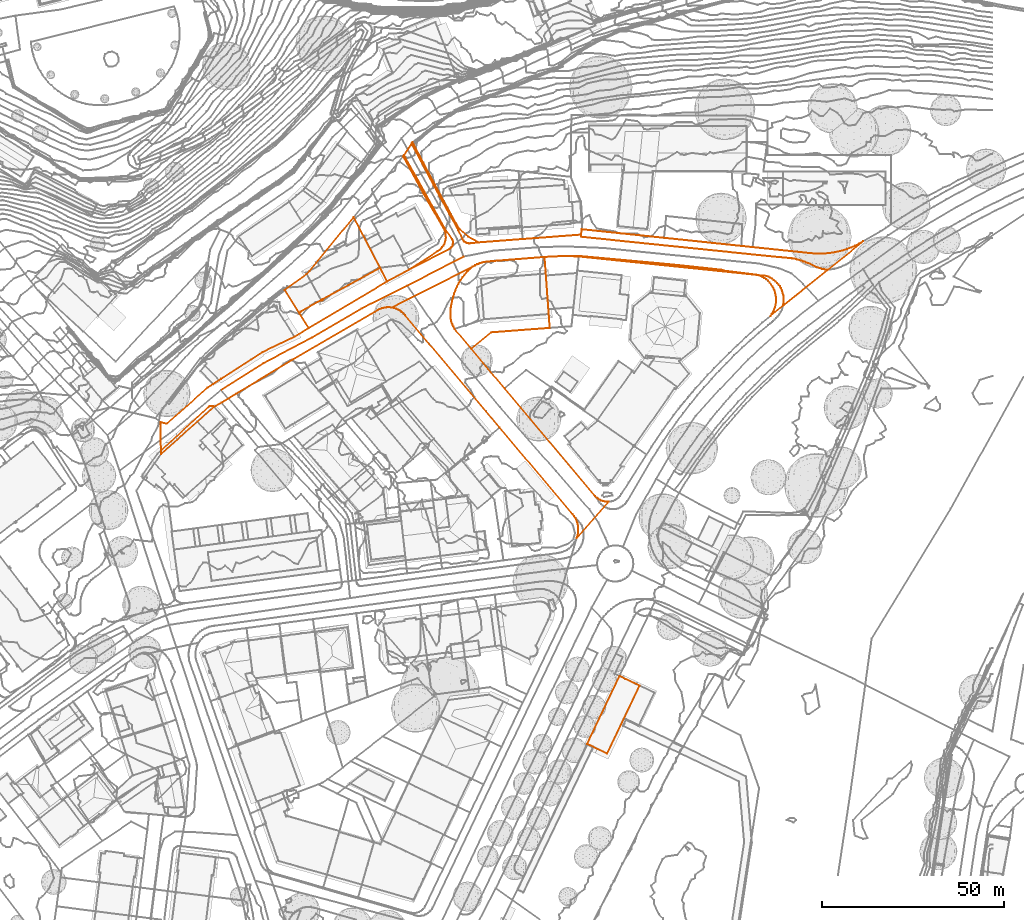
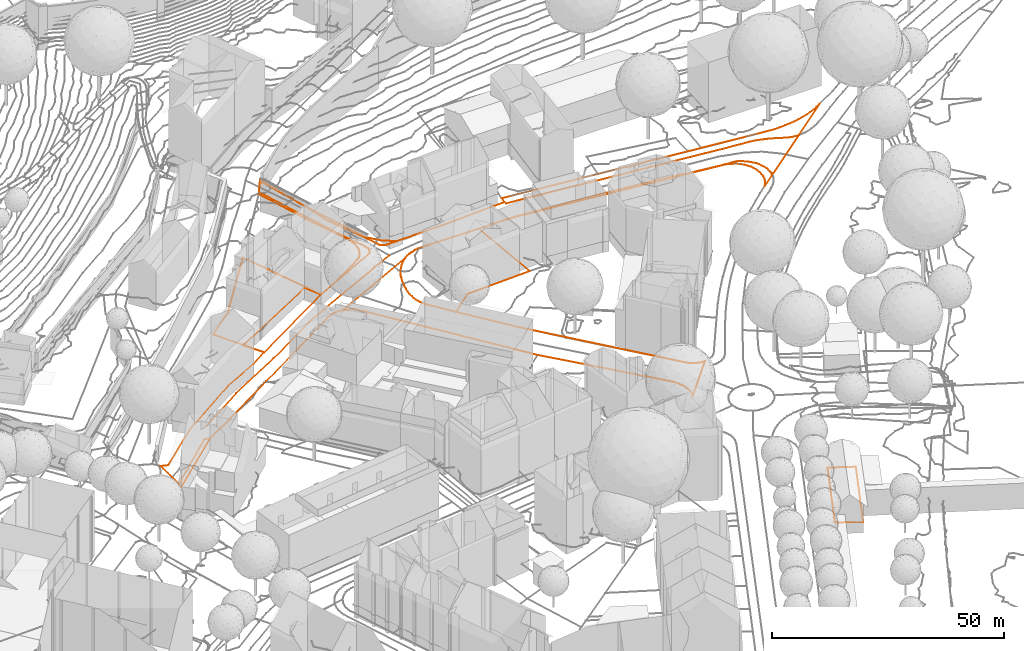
# Not in any storey, part 191 of 494: 8 proxies.
"""IFC2X3 model written with IfcOpenShell, lengths in metres."""

from ifc_helpers import new_model, entity, si_unit, frame, origin_with_axes, place, context, subcontext, project, element, save


model = new_model("IFC2X3")

# Units and contexts
model_context = context("Model", 3, precision=1e-05, world=origin_with_axes())
body_context = subcontext(model_context, "Body", "Model", "MODEL_VIEW")
ifc_project = project(units=[si_unit("AREAUNIT", "SQUARE_METRE"), si_unit("LENGTHUNIT", "METRE")], contexts=[model_context])

# Proxies
proxy_1_placement = place(None, frame((527.7037320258, 265.7307350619, 504.381), z_axis=(0.0, 0.0, 1.0), x_axis=(1.0, 0.0, 0.0)))
element("IfcBuildingElementProxy", 1, at=proxy_1_placement, Name="Road 159", ObjectType="NOTDEFINED", context=body_context, shape_type="GeometricCurveSet", body=[
    entity("IfcGeometricCurveSet", [entity("IfcPolyline", [entity("IfcCartesianPoint", [0.0, 0.0, 0.0]), entity("IfcCartesianPoint", [15.4189999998, 7.9289997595, -0.771])])]),
])
proxy_2_placement = place(None, frame((476.602732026, 237.095735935, 504.218), z_axis=(0.0, 0.0, 1.0), x_axis=(1.0, 0.0, 0.0)))
element("IfcBuildingElementProxy", 2, at=proxy_2_placement, Name="Road 160", ObjectType="NOTDEFINED", context=body_context, shape_type="GeometricCurveSet", body=[
    entity("IfcGeometricCurveSet", [entity("IfcPolyline", [entity("IfcCartesianPoint", [0.0, 0.0, 0.0]), entity("IfcCartesianPoint", [11.5999999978, 7.3429997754, 0.158]), entity("IfcCartesianPoint", [24.9639999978, 14.3909995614, 0.296]), entity("IfcCartesianPoint", [38.4729999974, 22.3199993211, 0.466]), entity("IfcCartesianPoint", [51.1009999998, 28.6349991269, 0.163])])]),
])
proxy_3_placement = place(None, frame((498.0067320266, 258.2397160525, 505.0044023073), z_axis=(0.0, 0.0, 1.0), x_axis=(1.0, 0.0, 0.0)))
element("IfcBuildingElementProxy", 3, at=proxy_3_placement, Name="Roads Outline 86", ObjectType="NOTDEFINED", context=body_context, shape_type="GeometricCurveSet", body=[
    entity("IfcGeometricCurveSet", [entity("IfcPolyline", [entity("IfcCartesianPoint", [0.0, 0.0, 0.0]), entity("IfcCartesianPoint", [0.4220000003, 0.2329999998, 0.0104049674]), entity("IfcCartesianPoint", [0.352, 0.3589999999, 0.0224719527]), entity("IfcCartesianPoint", [6.051, 3.5049999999, -0.0154420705]), entity("IfcCartesianPoint", [6.1189999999, 3.3779999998, -0.0208523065]), entity("IfcCartesianPoint", [6.5470000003, 3.6169999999, -0.0224713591]), entity("IfcCartesianPoint", [6.48, 3.74, -0.0165495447]), entity("IfcCartesianPoint", [22.2250000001, 12.3529999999, -0.0714564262]), entity("IfcCartesianPoint", [24.165, 8.6279999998, -0.231767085]), entity("IfcCartesianPoint", [2.6370000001, -4.1850000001, -0.1503105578]), entity("IfcCartesianPoint", [0.0, 0.0, 0.0])])]),
])
proxy_4_placement = place(None, frame((459.9487320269, 228.2327160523, 504.8418987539), z_axis=(0.0, 0.0, 1.0), x_axis=(1.0, 0.0, 0.0)))
element("IfcBuildingElementProxy", 4, at=proxy_4_placement, Name="Roads Outline 138", ObjectType="NOTDEFINED", context=body_context, shape_type="GeometricCurveSet", body=[
    entity("IfcGeometricCurveSet", [entity("IfcPolyline", [entity("IfcCartesianPoint", [0.0, 0.0, 0.0]), entity("IfcCartesianPoint", [1.71, -0.4199999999, -0.1232187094]), entity("IfcCartesianPoint", [12.9679999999, 9.5210000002, -0.4129436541]), entity("IfcCartesianPoint", [14.4979999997, 10.5120000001, -0.421766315]), entity("IfcCartesianPoint", [16.6359999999, 11.8960000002, -0.4321760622]), entity("IfcCartesianPoint", [16.6599999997, 11.912, -0.4316490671]), entity("IfcCartesianPoint", [27.9759999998, 19.2410000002, -0.2433637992]), entity("IfcCartesianPoint", [36.7549999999, 23.4620000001, -0.0969192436]), entity("IfcCartesianPoint", [40.6949999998, 25.8220000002, 0.0121929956]), entity("IfcCartesianPoint", [62.2229999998, 38.635, -0.0692635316]), entity("IfcCartesianPoint", [68.2420000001, 41.865, -0.3630656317]), entity("IfcCartesianPoint", [79.3089999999, 47.5490000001, -0.8579074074]), entity("IfcCartesianPoint", [79.6159999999, 47.7790000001, -0.8668630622]), entity("IfcCartesianPoint", [79.8739999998, 48.0630000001, -0.8761889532]), entity("IfcCartesianPoint", [80.0729999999, 48.392, -0.885385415]), entity("IfcCartesianPoint", [80.2059999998, 48.7520000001, -0.8717490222]), entity("IfcCartesianPoint", [80.2679999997, 49.1310000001, -0.8525131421]), entity("IfcCartesianPoint", [80.2560000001, 49.5150000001, -0.8237447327]), entity("IfcCartesianPoint", [80.1710000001, 49.8900000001, -0.7766225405]), entity("IfcCartesianPoint", [80.0159999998, 50.2410000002, -0.7260662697]), entity("IfcCartesianPoint", [77.9699999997, 53.2650000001, 0.0005646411]), entity("IfcCartesianPoint", [72.4989999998, 63.1050000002, 2.0684889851]), entity("IfcCartesianPoint", [66.8339999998, 73.2950000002, 4.1607985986]), entity("IfcCartesianPoint", [68.9129999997, 76.4570000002, 4.4777958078]), entity("IfcCartesianPoint", [68.9720000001, 76.5480000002, 4.4693384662]), entity("IfcCartesianPoint", [69.1159999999, 76.6630000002, 4.434723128]), entity("IfcCartesianPoint", [69.4809999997, 76.2130000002, 4.2071783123]), entity("IfcCartesianPoint", [69.1719999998, 75.9670000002, 4.3556941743]), entity("IfcCartesianPoint", [74.9679999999, 65.0240000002, 1.7788296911]), entity("IfcCartesianPoint", [76.6179999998, 62.0150000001, 0.5416973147]), entity("IfcCartesianPoint", [81.6639999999, 52.814, -0.6172307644]), entity("IfcCartesianPoint", [81.702, 52.7370000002, -0.6213678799]), entity("IfcCartesianPoint", [82.9249999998, 50.209, -1.0006290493]), entity("IfcCartesianPoint", [83.1129999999, 49.8800000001, -1.0385109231]), entity("IfcCartesianPoint", [83.3599999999, 49.5930000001, -1.0722794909]), entity("IfcCartesianPoint", [83.6569999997, 49.358, -1.0953509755]), entity("IfcCartesianPoint", [83.9929999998, 49.1840000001, -1.1090376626]), entity("IfcCartesianPoint", [84.3559999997, 49.0760000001, -1.124741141]), entity("IfcCartesianPoint", [84.733, 49.0390000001, -1.1439229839]), entity("IfcCartesianPoint", [85.1099999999, 49.074, -1.1650222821]), entity("IfcCartesianPoint", [87.25, 49.317, -1.2778135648]), entity("IfcCartesianPoint", [99.3489999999, 50.2380000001, -1.8017034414]), entity("IfcCartesianPoint", [115.3879999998, 51.4500000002, -2.1168988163]), entity("IfcCartesianPoint", [115.3649999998, 50.8560000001, -2.1028507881]), entity("IfcCartesianPoint", [135.1370000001, 48.8110000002, -2.2270129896]), entity("IfcCartesianPoint", [162.3309999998, 46.0210000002, -2.386471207]), entity("IfcCartesianPoint", [165.1529999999, 45.7240000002, -2.4019674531]), entity("IfcCartesianPoint", [167.977, 45.4450000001, -2.39616512]), entity("IfcCartesianPoint", [170.2969999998, 45.2290000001, -2.4029623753]), entity("IfcCartesianPoint", [172.6179999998, 45.0250000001, -2.3969487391]), entity("IfcCartesianPoint", [173.3119999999, 44.9430000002, -2.4014590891]), entity("IfcCartesianPoint", [174.0, 44.817, -2.3913046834]), entity("IfcCartesianPoint", [174.6859999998, 44.6460000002, -2.3960505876]), entity("IfcCartesianPoint", [175.3599999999, 44.432, -2.4049477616]), entity("IfcCartesianPoint", [175.852, 44.2830000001, -2.4295135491]), entity("IfcCartesianPoint", [176.3419999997, 44.1290000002, -2.4437197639]), entity("IfcCartesianPoint", [176.7259999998, 43.996, -2.4327907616]), entity("IfcCartesianPoint", [177.108, 43.8550000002, -2.423153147]), entity("IfcCartesianPoint", [177.6009999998, 43.6600000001, -2.4193285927]), entity("IfcCartesianPoint", [178.088, 43.452, -2.4255263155]), entity("IfcCartesianPoint", [179.9939999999, 42.5360000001, -2.4086142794]), entity("IfcCartesianPoint", [180.7479999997, 42.2560000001, -2.4134071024]), entity("IfcCartesianPoint", [181.5260000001, 42.0520000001, -2.417632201]), entity("IfcCartesianPoint", [182.321, 41.925, -2.4143563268]), entity("IfcCartesianPoint", [183.1239999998, 41.878, -2.4096493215]), entity("IfcCartesianPoint", [170.7779999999, 31.969, -2.5358252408]), entity("IfcCartesianPoint", [170.8459999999, 32.273, -2.5293900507]), entity("IfcCartesianPoint", [170.906, 32.5790000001, -2.525210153]), entity("IfcCartesianPoint", [170.96, 33.027, -2.5184964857]), entity("IfcCartesianPoint", [170.9839999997, 33.4770000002, -2.5111974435]), entity("IfcCartesianPoint", [170.9669999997, 34.0870000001, -2.5101185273]), entity("IfcCartesianPoint", [170.895, 34.692, -2.5056473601]), entity("IfcCartesianPoint", [170.7069999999, 35.419, -2.4953802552]), entity("IfcCartesianPoint", [170.4609999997, 36.1290000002, -2.4664247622]), entity("IfcCartesianPoint", [170.216, 36.7320000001, -2.4511136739]), entity("IfcCartesianPoint", [169.9010000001, 37.3010000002, -2.4267985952]), entity("IfcCartesianPoint", [169.5449999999, 37.7810000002, -2.4251996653]), entity("IfcCartesianPoint", [169.1439999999, 38.2240000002, -2.4481680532]), entity("IfcCartesianPoint", [168.702, 38.6270000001, -2.4188052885]), entity("IfcCartesianPoint", [168.2239999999, 38.986, -2.3899649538]), entity("IfcCartesianPoint", [167.7429999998, 39.3540000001, -2.3787838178]), entity("IfcCartesianPoint", [167.2239999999, 39.6670000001, -2.3629375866]), entity("IfcCartesianPoint", [166.75, 39.888, -2.3629223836]), entity("IfcCartesianPoint", [166.2579999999, 40.0620000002, -2.3602938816]), entity("IfcCartesianPoint", [165.7509999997, 40.189, -2.4042580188]), entity("IfcCartesianPoint", [165.443, 40.2300000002, -2.4245010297]), entity("IfcCartesianPoint", [165.1340000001, 40.2580000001, -2.4381299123]), entity("IfcCartesianPoint", [164.7080000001, 40.2750000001, -2.4457945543]), entity("IfcCartesianPoint", [164.281, 40.267, -2.4553817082]), entity("IfcCartesianPoint", [163.9720000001, 40.3540000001, -2.4663609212]), entity("IfcCartesianPoint", [163.6549999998, 40.4100000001, -2.4838023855]), entity("IfcCartesianPoint", [154.2119999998, 41.5990000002, -2.4604667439]), entity("IfcCartesianPoint", [154.1969999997, 41.77, -2.4478355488]), entity("IfcCartesianPoint", [144.6359999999, 42.8060000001, -2.2855084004]), entity("IfcCartesianPoint", [142.4709999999, 43.0280000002, -2.2872750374]), entity("IfcCartesianPoint", [140.3059999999, 43.2450000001, -2.2930214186]), entity("IfcCartesianPoint", [138.0090000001, 43.4700000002, -2.280143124]), entity("IfcCartesianPoint", [135.7109999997, 43.6900000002, -2.2474278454]), entity("IfcCartesianPoint", [114.764, 45.5960000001, -2.1354539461]), entity("IfcCartesianPoint", [110.7879999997, 45.5990000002, -2.1140774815]), entity("IfcCartesianPoint", [105.3699999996, 45.327, -1.9455361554]), entity("IfcCartesianPoint", [90.3199999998, 44.1270000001, -0.8276249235]), entity("IfcCartesianPoint", [89.6289999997, 44.0650000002, -0.8125362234]), entity("IfcCartesianPoint", [88.9439999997, 43.956, -0.8382813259]), entity("IfcCartesianPoint", [88.2679999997, 43.8, -0.9180225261]), entity("IfcCartesianPoint", [87.605, 43.598, -0.8948761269]), entity("IfcCartesianPoint", [86.9139999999, 43.3300000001, -0.8857218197]), entity("IfcCartesianPoint", [86.2449999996, 43.013, -0.9266092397]), entity("IfcCartesianPoint", [85.6009999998, 42.6470000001, -0.9684238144]), entity("IfcCartesianPoint", [63.483, 31.4440000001, -0.3169070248]), entity("IfcCartesianPoint", [62.7999999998, 31.5190000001, -0.3063845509]), entity("IfcCartesianPoint", [62.1129999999, 31.5160000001, -0.2919583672]), entity("IfcCartesianPoint", [61.4309999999, 31.4340000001, -0.2831952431]), entity("IfcCartesianPoint", [60.7629999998, 31.2750000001, -0.2898164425]), entity("IfcCartesianPoint", [60.1179999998, 31.0410000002, -0.3227302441]), entity("IfcCartesianPoint", [59.503, 30.7340000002, -0.3162904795]), entity("IfcCartesianPoint", [36.2560000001, 17.1810000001, -0.8135671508]), entity("IfcCartesianPoint", [20.9069999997, 7.898, -0.8180141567]), entity("IfcCartesianPoint", [16.7779999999, 5.4010000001, -0.5251862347]), entity("IfcCartesianPoint", [14.7080000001, 4.2300000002, -0.4770864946]), entity("IfcCartesianPoint", [14.4699999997, 4.3790000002, -0.4719172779]), entity("IfcCartesianPoint", [14.2029999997, 4.4670000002, -0.4660898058]), entity("IfcCartesianPoint", [13.9219999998, 4.4880000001, -0.4501818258]), entity("IfcCartesianPoint", [13.645, 4.442, -0.4307251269]), entity("IfcCartesianPoint", [13.3870000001, 4.3300000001, -0.4135209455]), entity("IfcCartesianPoint", [0.1429999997, -7.7159999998, -0.125604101]), entity("IfcCartesianPoint", [0.0209999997, -1.1239999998, 0.0149323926]), entity("IfcCartesianPoint", [0.0, 0.0, 0.0])])]),
])
proxy_5_placement = place(None, frame((459.9487320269, 228.2327160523, 504.8418987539), z_axis=(0.0, 0.0, 1.0), x_axis=(1.0, 0.0, 0.0)))
element("IfcBuildingElementProxy", 5, at=proxy_5_placement, Name="Cadastre 26", ObjectType="NOTDEFINED", context=body_context, shape_type="GeometricCurveSet", body=[
    entity("IfcGeometricCurveSet", [entity("IfcPolyline", [entity("IfcCartesianPoint", [0.0, 0.0, 0.0]), entity("IfcCartesianPoint", [1.71, -0.4199999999, -0.1232187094]), entity("IfcCartesianPoint", [12.9679999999, 9.5210000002, -0.4129436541]), entity("IfcCartesianPoint", [27.9759999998, 19.2410000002, -0.2433637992]), entity("IfcCartesianPoint", [36.7549999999, 23.4620000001, -0.0969192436]), entity("IfcCartesianPoint", [40.6949999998, 25.8220000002, 0.0121929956]), entity("IfcCartesianPoint", [62.2229999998, 38.635, -0.0692635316]), entity("IfcCartesianPoint", [68.2420000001, 41.865, -0.3630656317]), entity("IfcCartesianPoint", [76.071, 46.9160000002, -0.7551617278]), entity("IfcCartesianPoint", [76.5299999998, 47.2410000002, -0.7867815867]), entity("IfcCartesianPoint", [76.9469999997, 47.618, -0.7828451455]), entity("IfcCartesianPoint", [77.318, 48.0410000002, -0.7656288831]), entity("IfcCartesianPoint", [77.6370000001, 48.5050000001, -0.7362809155]), entity("IfcCartesianPoint", [77.8989999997, 49.0020000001, -0.6702431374]), entity("IfcCartesianPoint", [78.1009999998, 49.527, -0.6247521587]), entity("IfcCartesianPoint", [78.227, 50.071, -0.5673844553]), entity("IfcCartesianPoint", [78.2889999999, 50.6270000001, -0.4908465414]), entity("IfcCartesianPoint", [78.2859999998, 51.1860000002, -0.4051566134]), entity("IfcCartesianPoint", [78.2179999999, 51.74, -0.3207147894]), entity("IfcCartesianPoint", [78.0859999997, 52.2830000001, -0.1995545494]), entity("IfcCartesianPoint", [77.8909999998, 52.807, -0.0329382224]), entity("IfcCartesianPoint", [72.1809999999, 62.7370000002, 1.8230767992]), entity("IfcCartesianPoint", [66.5919999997, 72.9280000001, 3.986755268]), entity("IfcCartesianPoint", [69.156, 76.8280000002, 4.4366239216]), entity("IfcCartesianPoint", [75.3109999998, 65.1880000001, 1.5200778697]), entity("IfcCartesianPoint", [82.0209999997, 52.9170000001, -0.6916874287]), entity("IfcCartesianPoint", [84.341, 50.9170000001, -1.0382998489]), entity("IfcCartesianPoint", [87.25, 49.317, -1.2778135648]), entity("IfcCartesianPoint", [99.3489999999, 50.2380000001, -1.8017034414]), entity("IfcCartesianPoint", [115.3879999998, 51.4500000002, -2.1168988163]), entity("IfcCartesianPoint", [115.548, 52.9200000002, -2.0648500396]), entity("IfcCartesianPoint", [178.4619999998, 46.344, -2.2949476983]), entity("IfcCartesianPoint", [179.7029999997, 46.2540000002, -2.2675671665]), entity("IfcCartesianPoint", [180.9479999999, 46.233, -2.2443396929]), entity("IfcCartesianPoint", [182.1919999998, 46.2790000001, -2.1693552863]), entity("IfcCartesianPoint", [183.4309999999, 46.3930000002, -2.1648137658]), entity("IfcCartesianPoint", [184.6629999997, 46.5760000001, -2.2044088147]), entity("IfcCartesianPoint", [185.8819999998, 46.8250000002, -2.222130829]), entity("IfcCartesianPoint", [187.0899999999, 47.1320000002, -2.194226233]), entity("IfcCartesianPoint", [188.2799999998, 47.5050000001, -2.1938622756]), entity("IfcCartesianPoint", [189.4469999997, 47.9430000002, -2.2233870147]), entity("IfcCartesianPoint", [190.5889999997, 48.4440000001, -2.2305565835]), entity("IfcCartesianPoint", [191.7009999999, 49.0070000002, -2.2016459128]), entity("IfcCartesianPoint", [192.781, 49.6300000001, -2.2017138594]), entity("IfcCartesianPoint", [167.2939999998, 29.172, -2.5288479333]), entity("IfcCartesianPoint", [167.6919999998, 29.7100000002, -2.5128247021]), entity("IfcCartesianPoint", [168.037, 30.2830000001, -2.4973186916]), entity("IfcCartesianPoint", [168.3259999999, 30.8870000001, -2.4724062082]), entity("IfcCartesianPoint", [168.5549999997, 31.5160000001, -2.442945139]), entity("IfcCartesianPoint", [168.7239999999, 32.1630000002, -2.4601701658]), entity("IfcCartesianPoint", [168.8300000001, 32.824, -2.4669942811]), entity("IfcCartesianPoint", [168.8729999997, 33.4920000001, -2.4684073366]), entity("IfcCartesianPoint", [168.8599999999, 34.1460000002, -2.4684645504]), entity("IfcCartesianPoint", [168.7859999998, 34.797, -2.4519349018]), entity("IfcCartesianPoint", [168.6519999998, 35.4370000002, -2.4167913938]), entity("IfcCartesianPoint", [168.4589999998, 36.0630000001, -2.386385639]), entity("IfcCartesianPoint", [168.2080000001, 36.6670000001, -2.3694912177]), entity("IfcCartesianPoint", [167.9019999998, 37.246, -2.388795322]), entity("IfcCartesianPoint", [167.5430000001, 37.7930000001, -2.3846236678]), entity("IfcCartesianPoint", [167.1170000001, 38.3110000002, -2.3778846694]), entity("IfcCartesianPoint", [166.6429999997, 38.7850000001, -2.3934559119]), entity("IfcCartesianPoint", [166.125, 39.2120000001, -2.3633840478]), entity("IfcCartesianPoint", [165.5699999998, 39.5870000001, -2.4334442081]), entity("IfcCartesianPoint", [164.98, 39.9070000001, -2.4688640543]), entity("IfcCartesianPoint", [164.3629999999, 40.1700000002, -2.460080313]), entity("IfcCartesianPoint", [163.7239999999, 40.3720000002, -2.4806559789]), entity("IfcCartesianPoint", [114.7479999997, 45.449, -2.1417951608]), entity("IfcCartesianPoint", [110.7879999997, 45.5990000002, -2.1140774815]), entity("IfcCartesianPoint", [105.3699999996, 45.327, -1.9455361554]), entity("IfcCartesianPoint", [90.3199999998, 44.1270000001, -0.8276249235]), entity("IfcCartesianPoint", [89.4909999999, 44.047, -0.8063172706]), entity("IfcCartesianPoint", [88.6719999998, 43.8990000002, -0.874989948]), entity("IfcCartesianPoint", [87.8679999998, 43.6830000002, -0.9054371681]), entity("IfcCartesianPoint", [87.0839999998, 43.4010000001, -0.8808032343]), entity("IfcCartesianPoint", [86.327, 43.0550000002, -0.9195442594]), entity("IfcCartesianPoint", [85.6009999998, 42.6470000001, -0.9684238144]), entity("IfcCartesianPoint", [84.844, 41.99, -0.98275798]), entity("IfcCartesianPoint", [84.1299999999, 41.2860000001, -0.9680340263]), entity("IfcCartesianPoint", [83.4609999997, 40.5390000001, -0.9259197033]), entity("IfcCartesianPoint", [82.841, 39.7510000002, -0.8877785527]), entity("IfcCartesianPoint", [82.2709999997, 38.9260000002, -0.8561795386]), entity("IfcCartesianPoint", [81.7609999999, 38.0590000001, -0.8318337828]), entity("IfcCartesianPoint", [81.3059999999, 37.1630000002, -0.8188006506]), entity("IfcCartesianPoint", [80.9079999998, 36.2390000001, -0.7990948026]), entity("IfcCartesianPoint", [80.5699999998, 35.2920000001, -0.8220890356]), entity("IfcCartesianPoint", [80.2909999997, 34.3260000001, -0.854426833]), entity("IfcCartesianPoint", [80.0179999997, 33.3530000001, -0.8803527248]), entity("IfcCartesianPoint", [79.8059999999, 32.3640000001, -0.8889454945]), entity("IfcCartesianPoint", [79.6579999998, 31.3640000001, -0.9337260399]), entity("IfcCartesianPoint", [79.5719999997, 30.3560000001, -0.9732643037]), entity("IfcCartesianPoint", [79.551, 29.3450000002, -0.9744259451]), entity("IfcCartesianPoint", [79.591, 28.6860000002, -0.9998153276]), entity("IfcCartesianPoint", [79.6919999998, 28.0340000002, -1.0386483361]), entity("IfcCartesianPoint", [79.855, 27.3940000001, -1.0854868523]), entity("IfcCartesianPoint", [80.077, 26.7720000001, -1.0947895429]), entity("IfcCartesianPoint", [80.3569999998, 26.1740000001, -1.1212599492]), entity("IfcCartesianPoint", [80.6909999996, 25.6050000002, -1.1694567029]), entity("IfcCartesianPoint", [85.2709999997, 20.165, -1.5594335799]), entity("IfcCartesianPoint", [94.3699999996, 9.3350000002, -2.1065683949]), entity("IfcCartesianPoint", [119.2489999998, -20.2249999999, -2.2854980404]), entity("IfcCartesianPoint", [119.608, -20.605, -2.2430452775]), entity("IfcCartesianPoint", [120.0090000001, -20.9399999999, -2.2102747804]), entity("IfcCartesianPoint", [120.4469999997, -21.2259999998, -2.2139291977]), entity("IfcCartesianPoint", [120.915, -21.4589999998, -2.2231360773]), entity("IfcCartesianPoint", [121.4069999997, -21.635, -2.2162527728]), entity("IfcCartesianPoint", [121.9169999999, -21.7529999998, -2.2063405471]), entity("IfcCartesianPoint", [122.4359999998, -21.8089999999, -2.2046866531]), entity("IfcCartesianPoint", [122.9589999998, -21.8049999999, -2.2166508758]), entity("IfcCartesianPoint", [114.1689999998, -31.7969999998, -2.2718728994]), entity("IfcCartesianPoint", [114.3909999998, -31.1279999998, -2.2456216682]), entity("IfcCartesianPoint", [114.54, -30.4379999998, -2.2319009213]), entity("IfcCartesianPoint", [114.6129999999, -29.737, -2.2396165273]), entity("IfcCartesianPoint", [114.6099999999, -29.031, -2.2809871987]), entity("IfcCartesianPoint", [114.5299999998, -28.331, -2.3042538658]), entity("IfcCartesianPoint", [114.375, -27.6429999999, -2.2598914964]), entity("IfcCartesianPoint", [114.1459999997, -26.9759999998, -2.246243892]), entity("IfcCartesianPoint", [113.8459999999, -26.3369999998, -2.2091109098]), entity("IfcCartesianPoint", [113.4789999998, -25.7349999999, -2.1605950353]), entity("IfcCartesianPoint", [113.0489999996, -25.176, -2.1371415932]), entity("IfcCartesianPoint", [93.071, -1.456, -2.4771534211]), entity("IfcCartesianPoint", [67.0729999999, 29.4240000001, -0.4457394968]), entity("IfcCartesianPoint", [66.6599999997, 29.8600000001, -0.3921192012]), entity("IfcCartesianPoint", [66.2059999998, 30.253, -0.3357380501]), entity("IfcCartesianPoint", [65.7149999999, 30.598, -0.3156694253]), entity("IfcCartesianPoint", [65.1919999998, 30.8930000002, -0.2999227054]), entity("IfcCartesianPoint", [64.6409999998, 31.1330000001, -0.3147664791]), entity("IfcCartesianPoint", [64.0699999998, 31.3180000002, -0.3212228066]), entity("IfcCartesianPoint", [63.483, 31.4440000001, -0.3169070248]), entity("IfcCartesianPoint", [62.7999999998, 31.5190000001, -0.3063845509]), entity("IfcCartesianPoint", [62.1129999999, 31.5160000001, -0.2919583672]), entity("IfcCartesianPoint", [61.4309999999, 31.4340000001, -0.2831952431]), entity("IfcCartesianPoint", [60.7629999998, 31.2750000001, -0.2898164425]), entity("IfcCartesianPoint", [60.1179999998, 31.0410000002, -0.3227302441]), entity("IfcCartesianPoint", [59.503, 30.7340000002, -0.3162904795]), entity("IfcCartesianPoint", [36.2560000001, 17.1810000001, -0.8135671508]), entity("IfcCartesianPoint", [16.7779999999, 5.4010000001, -0.5251862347]), entity("IfcCartesianPoint", [14.7080000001, 4.2300000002, -0.4770864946]), entity("IfcCartesianPoint", [0.1609999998, -8.7, -0.1581137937]), entity("IfcCartesianPoint", [0.0, 0.0, 0.0])])]),
])
proxy_6_placement = place(None, frame((539.4997320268, 257.5777160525, 503.8674728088), z_axis=(0.0, 0.0, 1.0), x_axis=(1.0, 0.0, 0.0)))
element("IfcBuildingElementProxy", 6, at=proxy_6_placement, Name="Cadastre 29", ObjectType="NOTDEFINED", context=body_context, shape_type="GeometricCurveSet", body=[
    entity("IfcGeometricCurveSet", [entity("IfcPolyline", [entity("IfcCartesianPoint", [0.0, 0.0, 0.0]), entity("IfcCartesianPoint", [0.0209999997, 1.0109999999, 0.0011616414]), entity("IfcCartesianPoint", [0.1069999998, 2.0189999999, 0.0406999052]), entity("IfcCartesianPoint", [0.2549999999, 3.0189999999, 0.0854804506]), entity("IfcCartesianPoint", [0.4669999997, 4.0079999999, 0.0940732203]), entity("IfcCartesianPoint", [0.7399999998, 4.9809999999, 0.1199991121]), entity("IfcCartesianPoint", [1.0189999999, 5.9469999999, 0.1523369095]), entity("IfcCartesianPoint", [1.3569999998, 6.8939999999, 0.1753311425]), entity("IfcCartesianPoint", [1.7549999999, 7.818, 0.1556252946]), entity("IfcCartesianPoint", [2.21, 8.7139999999, 0.1425921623]), entity("IfcCartesianPoint", [2.7199999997, 9.581, 0.1182464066]), entity("IfcCartesianPoint", [3.29, 10.406, 0.0866473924]), entity("IfcCartesianPoint", [3.9099999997, 11.1939999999, 0.0485062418]), entity("IfcCartesianPoint", [4.5789999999, 11.9409999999, 0.0063919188]), entity("IfcCartesianPoint", [5.2930000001, 12.6449999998, -0.0083320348]), entity("IfcCartesianPoint", [6.0499999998, 13.3019999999, 0.0060021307]), entity("IfcCartesianPoint", [6.7760000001, 13.71, 0.0548816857]), entity("IfcCartesianPoint", [7.5329999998, 14.0559999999, 0.0936227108]), entity("IfcCartesianPoint", [8.3169999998, 14.338, 0.068988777]), entity("IfcCartesianPoint", [9.1209999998, 14.554, 0.0994359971]), entity("IfcCartesianPoint", [9.9399999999, 14.7019999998, 0.1681086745]), entity("IfcCartesianPoint", [10.7689999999, 14.7819999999, 0.1468010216]), entity("IfcCartesianPoint", [25.8189999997, 15.9819999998, -0.9711102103]), entity("IfcCartesianPoint", [27.2439999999, -3.486, -0.792379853]), entity("IfcCartesianPoint", [11.0899999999, -4.699, -0.4419760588]), entity("IfcCartesianPoint", [5.7199999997, -9.1800000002, -0.5850076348]), entity("IfcCartesianPoint", [1.1399999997, -3.74, -0.1950307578]), entity("IfcCartesianPoint", [0.8059999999, -3.1710000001, -0.1468340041]), entity("IfcCartesianPoint", [0.5260000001, -2.5730000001, -0.1203635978]), entity("IfcCartesianPoint", [0.304, -1.9510000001, -0.1110609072]), entity("IfcCartesianPoint", [0.1409999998, -1.311, -0.064222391]), entity("IfcCartesianPoint", [0.04, -0.659, -0.0253893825]), entity("IfcCartesianPoint", [0.0, 0.0, 0.0])])]),
])
proxy_7_placement = place(None, frame((494.0337320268, 264.5447160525, 505.5002878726), z_axis=(0.0, 0.0, 1.0), x_axis=(1.0, 0.0, 0.0)))
element("IfcBuildingElementProxy", 7, at=proxy_7_placement, Name="Cadastre 133", ObjectType="NOTDEFINED", context=body_context, shape_type="GeometricCurveSet", body=[
    entity("IfcGeometricCurveSet", [entity("IfcPolyline", [entity("IfcCartesianPoint", [0.0, 0.0, 0.0]), entity("IfcCartesianPoint", [6.0699999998, 4.3659999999, 0.7971364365]), entity("IfcCartesianPoint", [6.77, 5.166, 0.858724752]), entity("IfcCartesianPoint", [18.9380000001, 19.993, 1.4903913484]), entity("IfcCartesianPoint", [28.1379999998, 2.3229999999, -0.7276526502]), entity("IfcCartesianPoint", [6.6099999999, -10.49, -0.646196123]), entity("IfcCartesianPoint", [0.0, 0.0, 0.0])])]),
])
proxy_8_placement = place(None, frame((576.9417320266, 139.9997160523, 502.5423381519), z_axis=(0.0, 0.0, 1.0), x_axis=(1.0, 0.0, 0.0)))
element("IfcBuildingElementProxy", 8, at=proxy_8_placement, Name="Cadastre 201", ObjectType="NOTDEFINED", context=body_context, shape_type="GeometricCurveSet", body=[
    entity("IfcGeometricCurveSet", [entity("IfcPolyline", [entity("IfcCartesianPoint", [0.0, 0.0, 0.0]), entity("IfcCartesianPoint", [8.9010000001, 18.6150000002, 0.021134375]), entity("IfcCartesianPoint", [14.415, 15.973, -0.0799058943]), entity("IfcCartesianPoint", [5.517, -2.642, -0.2535345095]), entity("IfcCartesianPoint", [0.0, 0.0, 0.0])])]),
])

save(model, "model.ifc")
